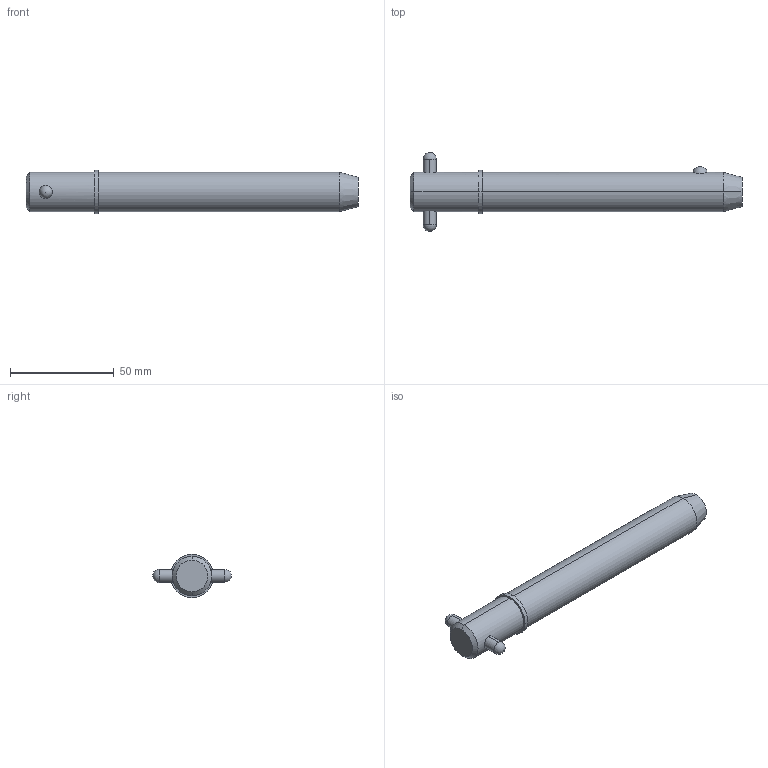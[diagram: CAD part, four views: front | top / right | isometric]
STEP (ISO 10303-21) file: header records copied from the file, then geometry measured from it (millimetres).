
FILE_DESCRIPTION (( 'STEP AP203' ), '1' );
FILE_NAME ('33018.W7540.step', '2024-11-19T17:20:43', ( '' ), ( '' ), 'SwSTEP 2.0', 'SolidWorks 2019', '' );
FILE_SCHEMA (( 'CONFIG_CONTROL_DESIGN' ));
Length unit declared in the file: millimetre
Products named in the file (3): 33018.W7540; Part2_33018.W7540; Part1_33018.W7540
Assembly tree (2 placements, depth 2):
  33018.W7540
    Part1_33018.W7540
    Part2_33018.W7540
Bounding box: 160.33 x 38.1 x 20.95 mm (x, y, z)
Volume: 45744 mm3; surface area: 11143.8 mm2
Topology: 2 solids, 2 shells, 22 faces, 47 edges, 30 vertices
Faces by surface type: cylinder 10, sphere 4, cone 4, plane 4
Entity records: 1041 total; most frequent: CARTESIAN_POINT 284, DIRECTION 110, ORIENTED_EDGE 82, AXIS2_PLACEMENT_3D 48, EDGE_CURVE 41, EDGE_LOOP 27, PERSON_AND_ORGANIZATION 26, VERTEX_POINT 26
